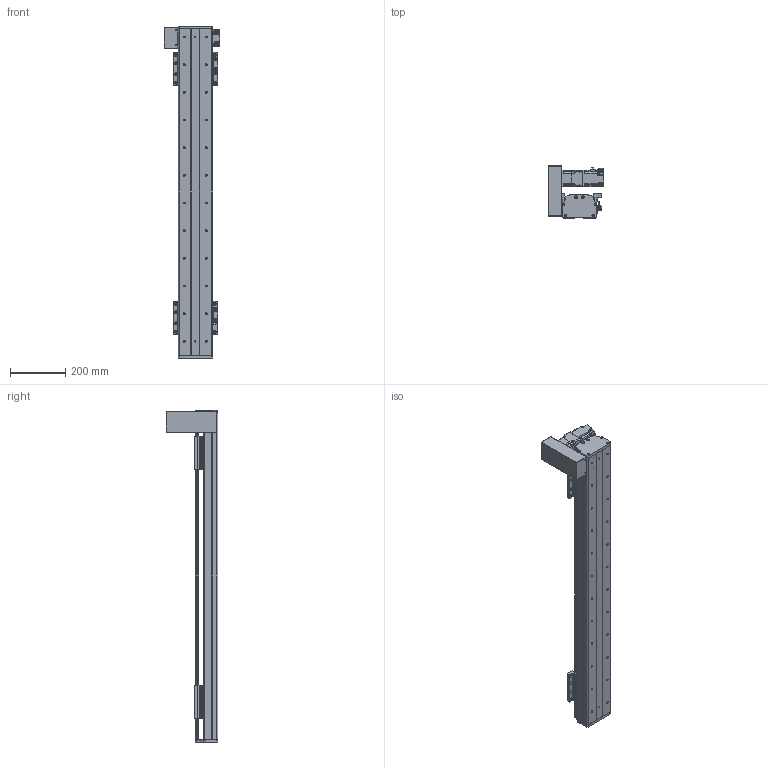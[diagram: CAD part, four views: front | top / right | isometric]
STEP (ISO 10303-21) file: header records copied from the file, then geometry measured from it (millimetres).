
FILE_DESCRIPTION(/* description */ (''),/* implementation_level */ '2;1');
FILE_NAME(/* name */ 'C:\Users\PC\Desktop\3D도면\STEP\DSB125-UL2G-W0900-R.stp',/* time_stamp */ '2018-06-19T00:41:49-07:00',/* author */ ('PC'),/* organization */ (''),/* preprocessor_version */ 'ST-DEVELOPER v16.5',/* originating_system */ 'Autodesk Inventor 2017',/* authorisation */ '');
FILE_SCHEMA (('AUTOMOTIVE_DESIGN { 1 0 10303 214 3 1 1 }'));
Length unit declared in the file: millimetre
Products named in the file (12): DSB125-L-300ST; DSR125-BASE(S-TYPE); DSR125-UP COVER-R01(170203); DSR125-REAR COVER-R01(170203); DSR125-REAR COVER-R01(170203)_1; hg-kr23_; ab0601-p0401200402; 13-BELT COVER; DSR126-SENSOR DOG; SENSOR BRACKET(EE-SX674A); pm-y65_step; DSR125-TABLE(MSA15X)
Assembly tree (16 placements, depth 2):
  DSB125-L-300ST
    DSR125-BASE(S-TYPE)
    DSR125-UP COVER-R01(170203)
    DSR125-REAR COVER-R01(170203)
    DSR125-REAR COVER-R01(170203)_1
    hg-kr23_
    ab0601-p0401200402
    13-BELT COVER
    DSR126-SENSOR DOG
    SENSOR BRACKET(EE-SX674A)  x3
    pm-y65_step  x3
    DSR125-TABLE(MSA15X)  x2
Bounding box: 202.1 x 187 x 1200 mm (x, y, z)
Volume: 4538754.6 mm3; surface area: 1308778.1 mm2
Topology: 17 solids, 22 shells, 1669 faces, 4521 edges, 2982 vertices
Faces by surface type: plane 908, cylinder 635, cone 114, sphere 8, torus 4
Full cylindrical faces by diameter (mm): 2.459 x20, 3.242 x16, 3.5 x6, 4 x1, 4.134 x16, 4.2 x4, 4.3 x1, 4.5 x50, 4.917 x20, 5 x27, 5.3 x1, 5.5 x4, 5.6 x8, 5.8 x4, 5.9 x8, 6 x4, 6.6 x22, 6.647 x24, 7.5 x32, 8.5 x8, 8.7 x1, 11 x22, 14 x1, 16 x2, 17 x1, 20 x1, 47 x1, 50 x3
Entity records: 35510 total; most frequent: CARTESIAN_POINT 6523, DIRECTION 6156, ORIENTED_EDGE 5494, EDGE_CURVE 2752, AXIS2_PLACEMENT_3D 2266, VERTEX_POINT 1961, EDGE_LOOP 1689, LINE 1624
